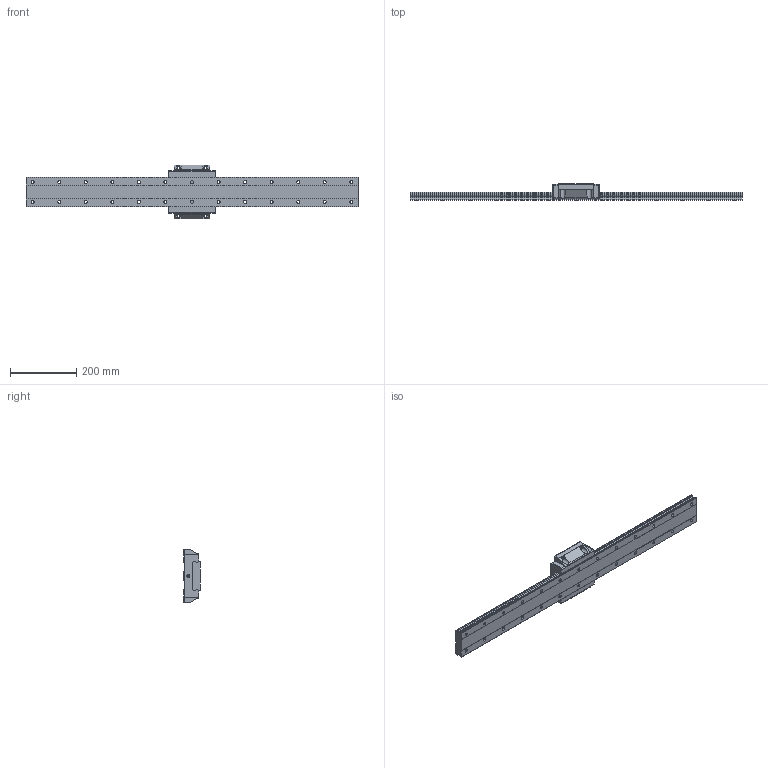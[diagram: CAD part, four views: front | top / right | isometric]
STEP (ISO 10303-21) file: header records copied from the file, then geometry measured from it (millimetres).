
FILE_DESCRIPTION( ( '' ), '1' );
FILE_NAME( 'C:/Users/v3-771-32344/Documents/Website 2016/STEP/SHW50CA1UU1000200429.5000.stp', '2016-11-10T12:44:30', ( '' ), ( '' ), ' ', ' ', ' ' );
FILE_SCHEMA( ( 'CONFIG_CONTROL_DESIGN' ) );
Length unit declared in the file: millimetre
Products named in the file (2): 1; 2
Bounding box: 1000 x 50 x 162 mm (x, y, z)
Volume: 2574457.2 mm3; surface area: 334535.2 mm2
Topology: 2 solids, 2 shells, 328 faces, 858 edges, 558 vertices
Faces by surface type: cylinder 158, plane 134, cone 36
Entity records: 10478 total; most frequent: DIRECTION 1878, CARTESIAN_POINT 1858, ORIENTED_EDGE 1708, EDGE_CURVE 854, AXIS2_PLACEMENT_3D 698, VERTEX_POINT 558, LINE 482, VECTOR 482
